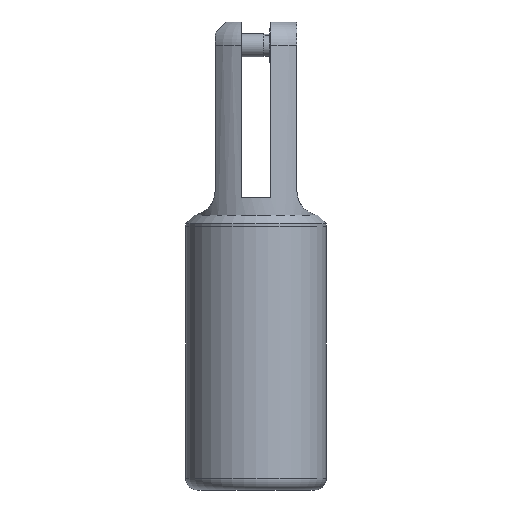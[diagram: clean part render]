
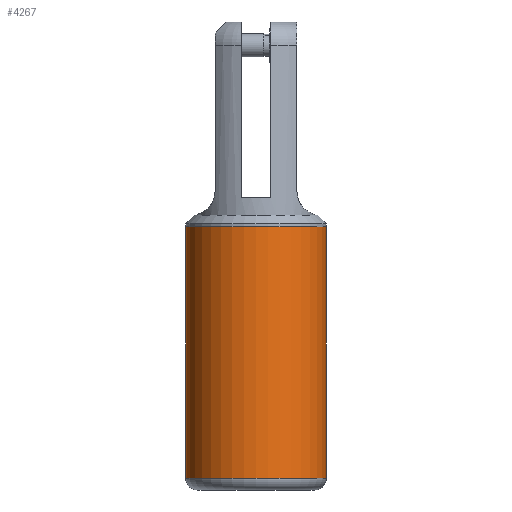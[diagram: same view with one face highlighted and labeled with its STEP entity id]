
A CAD part, front view. The second image highlights one B-rep face of the part: STEP entity #4267.
In plain terms, the highlighted cylindrical face has radius 19.05 mm (diameter 38.1 mm), a partial arc.
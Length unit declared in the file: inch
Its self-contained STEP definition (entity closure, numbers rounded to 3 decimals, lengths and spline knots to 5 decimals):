
#1116 = DIRECTION ( 'NONE',  ( 0., 0., -1. ) ) ;
#1117 = VECTOR ( 'NONE', #1116, 39.37008 ) ;
#1118 = CARTESIAN_POINT ( 'NONE',  ( -0.75, 0., 2.812 ) ) ;
#1119 = LINE ( 'NONE', #1118, #1117 ) ;
#3009 = CARTESIAN_POINT ( 'NONE',  ( 0., 0., 2.812 ) ) ;
#3010 = AXIS2_PLACEMENT_3D ( 'NONE', #3009, #3074, #3073 ) ;
#3011 = CYLINDRICAL_SURFACE ( 'NONE', #3010, 0.75 ) ;
#3025 = AXIS2_PLACEMENT_3D ( 'NONE', #3052, #3051, #3036 ) ;
#3026 = CIRCLE ( 'NONE', #3025, 0.75 ) ;
#3036 = DIRECTION ( 'NONE',  ( 1., 0., 0. ) ) ;
#3041 = FACE_OUTER_BOUND ( 'NONE', #4268, .T. ) ;
#3051 = DIRECTION ( 'NONE',  ( 0., 0., 1. ) ) ;
#3052 = CARTESIAN_POINT ( 'NONE',  ( 0., 0., 2.812 ) ) ;
#3073 = DIRECTION ( 'NONE',  ( -1., 0., 0. ) ) ;
#3074 = DIRECTION ( 'NONE',  ( 0., 0., -1. ) ) ;
#3103 = CARTESIAN_POINT ( 'NONE',  ( 0.75, 0., 2.812 ) ) ;
#3104 = LINE ( 'NONE', #3103, #3131 ) ;
#3130 = DIRECTION ( 'NONE',  ( 0., 0., -1. ) ) ;
#3131 = VECTOR ( 'NONE', #3130, 39.37008 ) ;
#4161 = VERTEX_POINT ( 'NONE', #8541 ) ;
#4162 = VERTEX_POINT ( 'NONE', #8540 ) ;
#4175 = ORIENTED_EDGE ( 'NONE', *, *, #4176, .T. ) ;
#4176 = EDGE_CURVE ( 'NONE', #4191, #4194, #8532, .T. ) ;
#4191 = VERTEX_POINT ( 'NONE', #8716 ) ;
#4194 = VERTEX_POINT ( 'NONE', #8710 ) ;
#4260 = EDGE_CURVE ( 'NONE', #4161, #4194, #3104, .T. ) ;
#4262 = EDGE_CURVE ( 'NONE', #4162, #4161, #3026, .T. ) ;
#4267 = ADVANCED_FACE ( 'NONE', ( #3041 ), #3011, .T. ) ;
#4268 = EDGE_LOOP ( 'NONE', ( #4269, #4347, #4432, #4175 ) ) ;
#4269 = ORIENTED_EDGE ( 'NONE', *, *, #4260, .F. ) ;
#4347 = ORIENTED_EDGE ( 'NONE', *, *, #4262, .F. ) ;
#4424 = EDGE_CURVE ( 'NONE', #4162, #4191, #1119, .T. ) ;
#4432 = ORIENTED_EDGE ( 'NONE', *, *, #4424, .T. ) ;
#8532 = CIRCLE ( 'NONE', #8577, 0.75 ) ;
#8540 = CARTESIAN_POINT ( 'NONE',  ( -0.75, 0., 2.812 ) ) ;
#8541 = CARTESIAN_POINT ( 'NONE',  ( 0.75, 0., 2.812 ) ) ;
#8574 = DIRECTION ( 'NONE',  ( 1., 0., 0. ) ) ;
#8575 = DIRECTION ( 'NONE',  ( 0., 0., 1. ) ) ;
#8576 = CARTESIAN_POINT ( 'NONE',  ( 0., 0., 0.125 ) ) ;
#8577 = AXIS2_PLACEMENT_3D ( 'NONE', #8576, #8575, #8574 ) ;
#8710 = CARTESIAN_POINT ( 'NONE',  ( 0.75, 0., 0.125 ) ) ;
#8716 = CARTESIAN_POINT ( 'NONE',  ( -0.75, 0., 0.125 ) ) ;
